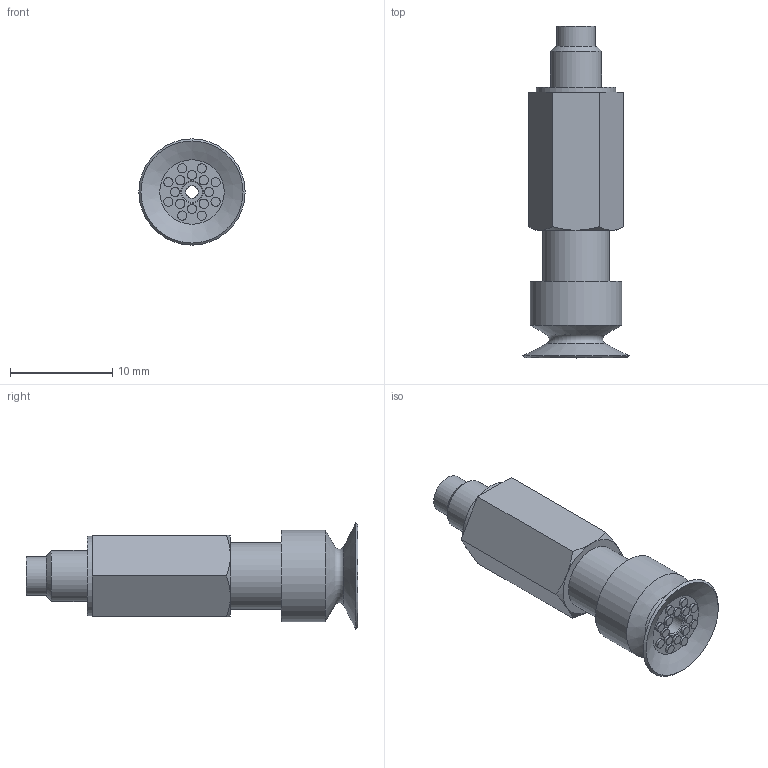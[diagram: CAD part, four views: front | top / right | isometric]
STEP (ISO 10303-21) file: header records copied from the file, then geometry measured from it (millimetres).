
FILE_DESCRIPTION(('STEP AP214'),'1');
FILE_NAME('.stp','2024-08-12T01:09:21',(' '),(' '),'Spatial InterOp 3D',' ',' ');
FILE_SCHEMA(('AUTOMOTIVE_DESIGN { 1 0 10303 214 1 1 1 1 }'));
Length unit declared in the file: millimetre
Products named in the file (4): BPSS-L5-BPAG-10A-※; PSS-10A-L5-M; PSS-10A-L5-F; BPAG-10A-※
Assembly tree (3 placements, depth 2):
  BPSS-L5-BPAG-10A-※
    PSS-10A-L5-M
    PSS-10A-L5-F
    BPAG-10A-※
Bounding box: 10.41 x 32.5 x 10.41 mm (x, y, z)
Volume: 1268.4 mm3; surface area: 1911.8 mm2
Topology: 3 solids, 3 shells, 87 faces, 152 edges, 97 vertices
Faces by surface type: plane 38, cylinder 31, cone 11, torus 7
Full cylindrical faces by diameter (mm): 0.9 x16, 1.2 x1, 2 x1, 2.4 x2, 3.4 x1, 3.8 x1, 4 x2, 5 x1, 6 x2, 6.5 x2, 7.8 x1, 9 x1
Entity records: 2916 total; most frequent: DIRECTION 354, CARTESIAN_POINT 311, ORIENTED_EDGE 208, AXIS2_PLACEMENT_3D 171, EDGE_LOOP 162, STYLED_ITEM 142, PRESENTATION_STYLE_ASSIGNMENT 142, COLOUR_RGB 142
